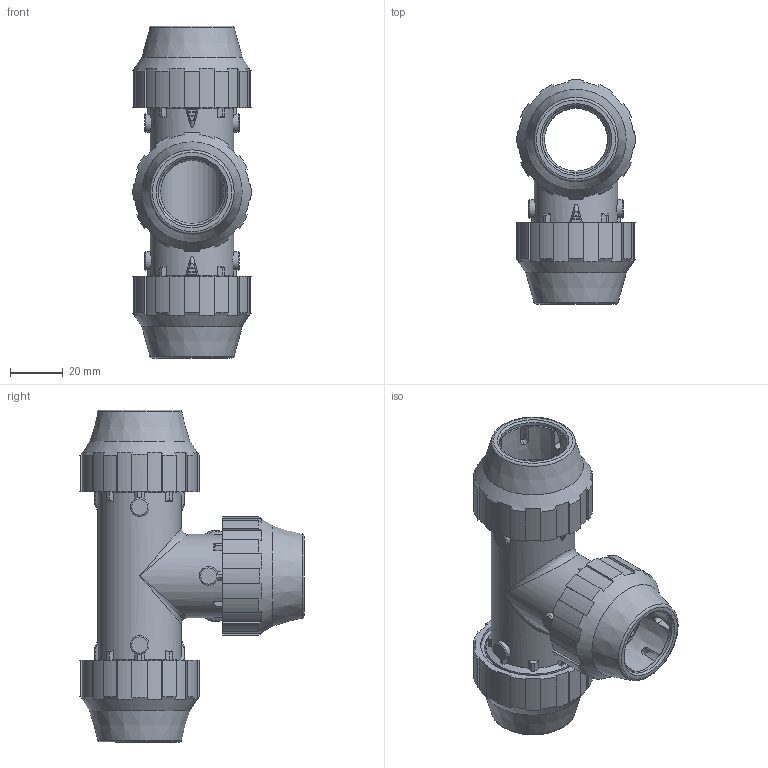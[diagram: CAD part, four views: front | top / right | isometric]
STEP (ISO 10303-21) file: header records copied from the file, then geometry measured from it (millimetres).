
FILE_DESCRIPTION( ( 'STEP AP214' ), '1' );
FILE_NAME( ' ', ' ', ( ' ' ), ( ' ' ), 'PSStep 11.0', 'VISI 17.0', ' ' );
FILE_SCHEMA( ( 'AUTOMOTIVE_DESIGN { 1 0 10303 214 1 1 1 1 }' ) );
Length unit declared in the file: millimetre
Products named in the file (31): 1; 2; 3; 4; 5; 6; 7; 8; 9; 10; 11; 12; 13; 14; 15; 16; 17; 18; 19; 20; 21; 22; 23; 24; 25; 26; 27; 28; 29; 30; 31
Bounding box: 44.98 x 85.24 x 126.27 mm (x, y, z)
Volume: 95596.4 mm3; surface area: 94487.7 mm2
Topology: 31 solids, 31 shells, 1266 faces, 3609 edges, 2389 vertices
Faces by surface type: plane 495, cylinder 349, cone 216, torus 132, bspline 74
Full cylindrical faces by diameter (mm): 7.042 x6, 24 x2, 25.7 x6, 25.9 x3, 31.751 x2, 32 x3, 33 x3, 33.5 x3, 35.9 x3, 36 x3, 37 x3, 40 x6
Entity records: 60096 total; most frequent: CARTESIAN_POINT 18564, ORIENTED_EDGE 6834, DIRECTION 6064, EDGE_CURVE 3417, AXIS2_PLACEMENT_3D 2534, VERTEX_POINT 2329, EDGE_LOOP 1440, FACE_OUTER_BOUND 1333
